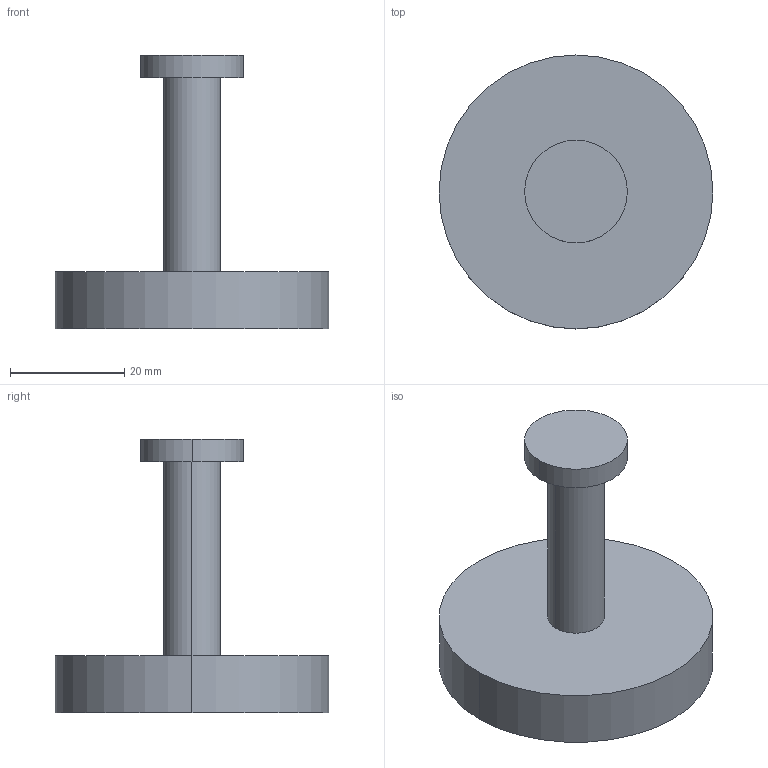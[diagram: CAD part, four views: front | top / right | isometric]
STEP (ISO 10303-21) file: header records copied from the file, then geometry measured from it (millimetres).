
FILE_DESCRIPTION(('FreeCAD Model'),'2;1');
FILE_NAME('Open CASCADE Shape Model','2024-08-10T19:09:35',('Author'),( ''),'Open CASCADE STEP processor 7.6','FreeCAD','Unknown');
FILE_SCHEMA(('AUTOMOTIVE_DESIGN { 1 0 10303 214 1 1 1 1 }'));
Length unit declared in the file: millimetre
Products named in the file (4): TopLevelAssembly; Wyciąganie001; Wyciągnięcie po ścieżce; Wyciąganie002
Assembly tree (3 placements, depth 2):
  TopLevelAssembly
    Wyciąganie001
    Wyciągnięcie po ścieżce
    Wyciąganie002
Bounding box: 48 x 48 x 48 mm (x, y, z)
Volume: 21783.8 mm3; surface area: 7087.4 mm2
Topology: 3 solids, 3 shells, 12 faces, 18 edges, 12 vertices
Faces by surface type: plane 6, cylinder 6
Entity records: 366 total; most frequent: DIRECTION 62, CARTESIAN_POINT 46, ORIENTED_EDGE 36, AXIS2_PLACEMENT_3D 28, EDGE_CURVE 18, ADVANCED_FACE 12, FACE_BOUND 12, EDGE_LOOP 12
